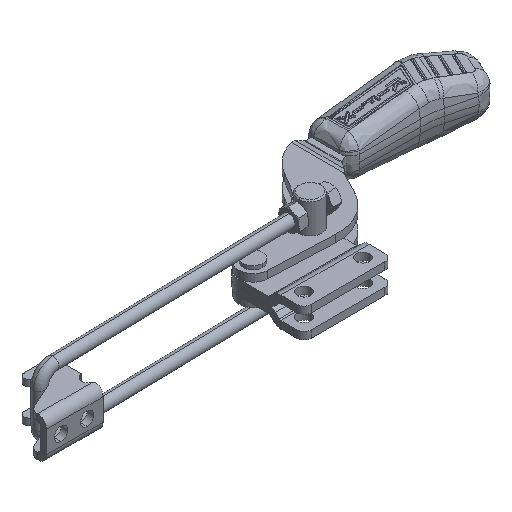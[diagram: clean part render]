
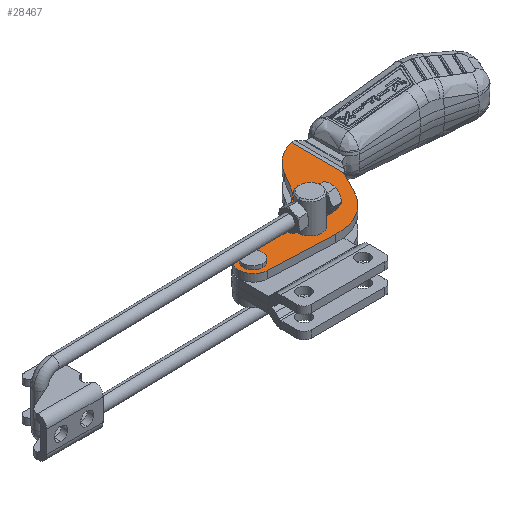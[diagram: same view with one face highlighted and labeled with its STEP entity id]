
A CAD part, isometric view. The second image highlights one B-rep face of the part: STEP entity #28467.
In plain terms, the highlighted planar face has unit normal (0, 0, 1) as drawn and (0, 0, -1) by its records, which use the part's own axes.
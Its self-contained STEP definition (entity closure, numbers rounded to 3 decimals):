
#270 = VECTOR ( 'NONE', #13195, 1000. ) ;
#274 = DIRECTION ( 'NONE',  ( 0., 0., 1. ) ) ;
#635 = DIRECTION ( 'NONE',  ( 0., 0., -1. ) ) ;
#1100 = DIRECTION ( 'NONE',  ( 0., 0., 1. ) ) ;
#2146 = EDGE_CURVE ( 'NONE', #16211, #12107, #26787, .T. ) ;
#2166 = CARTESIAN_POINT ( 'NONE',  ( 64.002, -29.114, -3. ) ) ;
#2236 = AXIS2_PLACEMENT_3D ( 'NONE', #17024, #635, #19737 ) ;
#2412 = ORIENTED_EDGE ( 'NONE', *, *, #10169, .F. ) ;
#2640 = CARTESIAN_POINT ( 'NONE',  ( 114.894, -23.21, -3. ) ) ;
#3252 = CARTESIAN_POINT ( 'NONE',  ( 114.076, -35.109, -3. ) ) ;
#3620 = VERTEX_POINT ( 'NONE', #35332 ) ;
#3810 = LINE ( 'NONE', #24371, #11123 ) ;
#4014 = VERTEX_POINT ( 'NONE', #3252 ) ;
#5139 = FACE_OUTER_BOUND ( 'NONE', #28322, .T. ) ;
#5549 = CARTESIAN_POINT ( 'NONE',  ( 79.565, -9.796, -3. ) ) ;
#5607 = EDGE_CURVE ( 'NONE', #23390, #16211, #27379, .T. ) ;
#5615 = CARTESIAN_POINT ( 'NONE',  ( 68.879, -25.503, -3. ) ) ;
#6339 = EDGE_CURVE ( 'NONE', #27489, #3620, #27341, .T. ) ;
#7088 = EDGE_CURVE ( 'NONE', #21841, #23390, #12778, .T. ) ;
#7500 = LINE ( 'NONE', #2166, #270 ) ;
#7528 = DIRECTION ( 'NONE',  ( 0., 0., 1. ) ) ;
#7603 = ORIENTED_EDGE ( 'NONE', *, *, #5607, .F. ) ;
#8218 = LINE ( 'NONE', #33997, #30943 ) ;
#8422 = DIRECTION ( 'NONE',  ( 0., 0., 1. ) ) ;
#8575 = AXIS2_PLACEMENT_3D ( 'NONE', #17480, #1100, #20195 ) ;
#8879 = DIRECTION ( 'NONE',  ( 0., 0., 1. ) ) ;
#9421 = CARTESIAN_POINT ( 'NONE',  ( 119.826, -29.114, -3. ) ) ;
#9549 = CARTESIAN_POINT ( 'NONE',  ( 114.073, -29.054, -3. ) ) ;
#9775 = VERTEX_POINT ( 'NONE', #18134 ) ;
#10169 = EDGE_CURVE ( 'NONE', #4014, #21841, #19013, .T. ) ;
#10307 = CARTESIAN_POINT ( 'NONE',  ( 64.002, 5.315, -3. ) ) ;
#10673 = CARTESIAN_POINT ( 'NONE',  ( 87.436, -36.22, -3. ) ) ;
#11123 = VECTOR ( 'NONE', #13408, 1000. ) ;
#12107 = VERTEX_POINT ( 'NONE', #5549 ) ;
#12221 = CARTESIAN_POINT ( 'NONE',  ( 93.216, -19.289, -3. ) ) ;
#12303 = DIRECTION ( 'NONE',  ( 1., 0., 0. ) ) ;
#12513 = VERTEX_POINT ( 'NONE', #35238 ) ;
#12524 = DIRECTION ( 'NONE',  ( 0., 0., 1. ) ) ;
#12778 = CIRCLE ( 'NONE', #22836, 6. ) ;
#12803 = EDGE_CURVE ( 'NONE', #3620, #23460, #8218, .T. ) ;
#12985 = CARTESIAN_POINT ( 'NONE',  ( 113.826, -29.114, -3. ) ) ;
#13195 = DIRECTION ( 'NONE',  ( 0., 1., 0. ) ) ;
#13259 = CIRCLE ( 'NONE', #28516, 3.2 ) ;
#13302 = FACE_BOUND ( 'NONE', #18862, .T. ) ;
#13405 = EDGE_CURVE ( 'NONE', #23190, #12513, #18035, .T. ) ;
#13408 = DIRECTION ( 'NONE',  ( -0.509, 0.861, 0. ) ) ;
#14094 = DIRECTION ( 'NONE',  ( 0., 0., -1. ) ) ;
#14473 = ORIENTED_EDGE ( 'NONE', *, *, #27453, .F. ) ;
#14897 = CARTESIAN_POINT ( 'NONE',  ( 76.022, -3.812, -3. ) ) ;
#14965 = DIRECTION ( 'NONE',  ( -0.984, 0.178, 0. ) ) ;
#15107 = EDGE_CURVE ( 'NONE', #27450, #15429, #16521, .T. ) ;
#15165 = CARTESIAN_POINT ( 'NONE',  ( 113.826, -29.114, -3. ) ) ;
#15429 = VERTEX_POINT ( 'NONE', #10307 ) ;
#15655 = AXIS2_PLACEMENT_3D ( 'NONE', #30503, #14094, #33260 ) ;
#16105 = CARTESIAN_POINT ( 'NONE',  ( 113.826, -29.114, -3. ) ) ;
#16211 = VERTEX_POINT ( 'NONE', #19973 ) ;
#16521 = CIRCLE ( 'NONE', #30662, 20. ) ;
#16655 = CARTESIAN_POINT ( 'NONE',  ( 58.812, -14., -3. ) ) ;
#16720 = ORIENTED_EDGE ( 'NONE', *, *, #21823, .T. ) ;
#17024 = CARTESIAN_POINT ( 'NONE',  ( 46.571, -26., -3. ) ) ;
#17063 = AXIS2_PLACEMENT_3D ( 'NONE', #25234, #8879, #28023 ) ;
#17257 = ORIENTED_EDGE ( 'NONE', *, *, #7088, .F. ) ;
#17480 = CARTESIAN_POINT ( 'NONE',  ( 89.847, -28.139, -3. ) ) ;
#17906 = DIRECTION ( 'NONE',  ( 1., 0., 0. ) ) ;
#18035 = CIRCLE ( 'NONE', #32925, 4.85 ) ;
#18134 = CARTESIAN_POINT ( 'NONE',  ( 87.436, -36.22, -3. ) ) ;
#18842 = DIRECTION ( 'NONE',  ( 1., 0., 0. ) ) ;
#18862 = EDGE_LOOP ( 'NONE', ( #35079, #29726 ) ) ;
#18879 = ORIENTED_EDGE ( 'NONE', *, *, #2146, .F. ) ;
#19013 = CIRCLE ( 'NONE', #33090, 6. ) ;
#19372 = DIRECTION ( 'NONE',  ( 1., 0., 0. ) ) ;
#19661 = EDGE_LOOP ( 'NONE', ( #31231, #16720 ) ) ;
#19737 = DIRECTION ( 'NONE',  ( 1., 0., 0. ) ) ;
#19973 = CARTESIAN_POINT ( 'NONE',  ( 93.216, -19.289, -3. ) ) ;
#20044 = VECTOR ( 'NONE', #14965, 1000. ) ;
#20149 = ORIENTED_EDGE ( 'NONE', *, *, #26567, .F. ) ;
#20195 = DIRECTION ( 'NONE',  ( 1., 0., 0. ) ) ;
#20289 = DIRECTION ( 'NONE',  ( 0.463, -0.886, 0. ) ) ;
#20794 = CARTESIAN_POINT ( 'NONE',  ( 110.873, -29.054, -3. ) ) ;
#21256 = CIRCLE ( 'NONE', #17063, 3.2 ) ;
#21549 = EDGE_CURVE ( 'NONE', #12107, #27450, #3810, .T. ) ;
#21823 = EDGE_CURVE ( 'NONE', #23282, #31707, #13259, .T. ) ;
#21841 = VERTEX_POINT ( 'NONE', #9421 ) ;
#22836 = AXIS2_PLACEMENT_3D ( 'NONE', #16105, #35295, #18842 ) ;
#23190 = VERTEX_POINT ( 'NONE', #25589 ) ;
#23203 = EDGE_CURVE ( 'NONE', #12513, #23190, #31173, .T. ) ;
#23282 = VERTEX_POINT ( 'NONE', #20794 ) ;
#23390 = VERTEX_POINT ( 'NONE', #2640 ) ;
#23460 = VERTEX_POINT ( 'NONE', #5615 ) ;
#23935 = PLANE ( 'NONE',  #24948 ) ;
#24371 = CARTESIAN_POINT ( 'NONE',  ( 76.022, -3.812, -3. ) ) ;
#24385 = DIRECTION ( 'NONE',  ( 0.999, 0.042, 0. ) ) ;
#24660 = EDGE_CURVE ( 'NONE', #27489, #15429, #7500, .T. ) ;
#24791 = CARTESIAN_POINT ( 'NONE',  ( 89.847, -28.139, -3. ) ) ;
#24948 = AXIS2_PLACEMENT_3D ( 'NONE', #12985, #7528, #26697 ) ;
#25234 = CARTESIAN_POINT ( 'NONE',  ( 114.073, -29.054, -3. ) ) ;
#25589 = CARTESIAN_POINT ( 'NONE',  ( 94.697, -28.139, -3. ) ) ;
#25848 = AXIS2_PLACEMENT_3D ( 'NONE', #28901, #12524, #31644 ) ;
#26567 = EDGE_CURVE ( 'NONE', #9775, #4014, #27494, .T. ) ;
#26697 = DIRECTION ( 'NONE',  ( 1., 0., 0. ) ) ;
#26787 = CIRCLE ( 'NONE', #15655, 20. ) ;
#26977 = FACE_BOUND ( 'NONE', #19661, .T. ) ;
#27341 = CIRCLE ( 'NONE', #2236, 20. ) ;
#27379 = LINE ( 'NONE', #12221, #20044 ) ;
#27450 = VERTEX_POINT ( 'NONE', #14897 ) ;
#27453 = EDGE_CURVE ( 'NONE', #23460, #9775, #30470, .T. ) ;
#27489 = VERTEX_POINT ( 'NONE', #34425 ) ;
#27494 = LINE ( 'NONE', #10673, #33080 ) ;
#27575 = DIRECTION ( 'NONE',  ( 1., 0., 0. ) ) ;
#28023 = DIRECTION ( 'NONE',  ( 1., 0., 0. ) ) ;
#28322 = EDGE_LOOP ( 'NONE', ( #35472, #30962, #30576, #32542, #18879, #7603, #17257, #2412, #20149, #14473, #30983 ) ) ;
#28467 = ADVANCED_FACE ( 'NONE', ( #13302, #26977, #5139 ), #23935, .F. ) ;
#28500 = CARTESIAN_POINT ( 'NONE',  ( 117.273, -29.054, -3. ) ) ;
#28516 = AXIS2_PLACEMENT_3D ( 'NONE', #9549, #28688, #12303 ) ;
#28688 = DIRECTION ( 'NONE',  ( 0., 0., 1. ) ) ;
#28901 = CARTESIAN_POINT ( 'NONE',  ( 86.603, -16.237, -3. ) ) ;
#29726 = ORIENTED_EDGE ( 'NONE', *, *, #23203, .T. ) ;
#30470 = CIRCLE ( 'NONE', #25848, 20. ) ;
#30503 = CARTESIAN_POINT ( 'NONE',  ( 96.775, 0.392, -3. ) ) ;
#30576 = ORIENTED_EDGE ( 'NONE', *, *, #15107, .F. ) ;
#30662 = AXIS2_PLACEMENT_3D ( 'NONE', #16655, #274, #19372 ) ;
#30943 = VECTOR ( 'NONE', #20289, 1000. ) ;
#30962 = ORIENTED_EDGE ( 'NONE', *, *, #24660, .T. ) ;
#30983 = ORIENTED_EDGE ( 'NONE', *, *, #12803, .F. ) ;
#31173 = CIRCLE ( 'NONE', #8575, 4.85 ) ;
#31231 = ORIENTED_EDGE ( 'NONE', *, *, #32921, .T. ) ;
#31644 = DIRECTION ( 'NONE',  ( 1., 0., 0. ) ) ;
#31707 = VERTEX_POINT ( 'NONE', #28500 ) ;
#32542 = ORIENTED_EDGE ( 'NONE', *, *, #21549, .F. ) ;
#32921 = EDGE_CURVE ( 'NONE', #31707, #23282, #21256, .T. ) ;
#32925 = AXIS2_PLACEMENT_3D ( 'NONE', #24791, #8422, #27575 ) ;
#33080 = VECTOR ( 'NONE', #24385, 1000. ) ;
#33090 = AXIS2_PLACEMENT_3D ( 'NONE', #15165, #34342, #17906 ) ;
#33260 = DIRECTION ( 'NONE',  ( 1., 0., 0. ) ) ;
#33997 = CARTESIAN_POINT ( 'NONE',  ( 64.294, -16.734, -3. ) ) ;
#34342 = DIRECTION ( 'NONE',  ( 0., 0., 1. ) ) ;
#34425 = CARTESIAN_POINT ( 'NONE',  ( 64.002, -16.195, -3. ) ) ;
#35079 = ORIENTED_EDGE ( 'NONE', *, *, #13405, .T. ) ;
#35238 = CARTESIAN_POINT ( 'NONE',  ( 84.997, -28.139, -3. ) ) ;
#35295 = DIRECTION ( 'NONE',  ( 0., 0., 1. ) ) ;
#35332 = CARTESIAN_POINT ( 'NONE',  ( 64.294, -16.734, -3. ) ) ;
#35472 = ORIENTED_EDGE ( 'NONE', *, *, #6339, .F. ) ;
